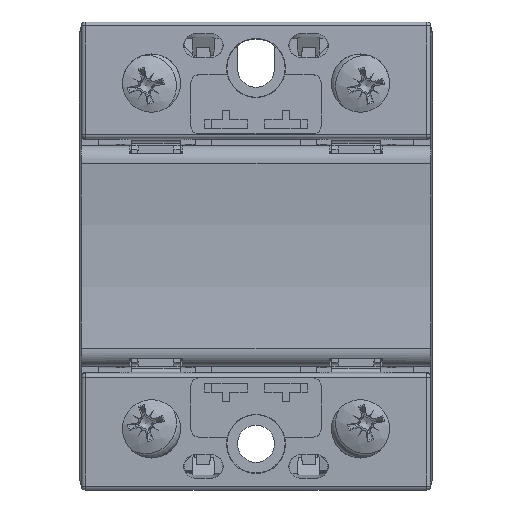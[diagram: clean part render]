
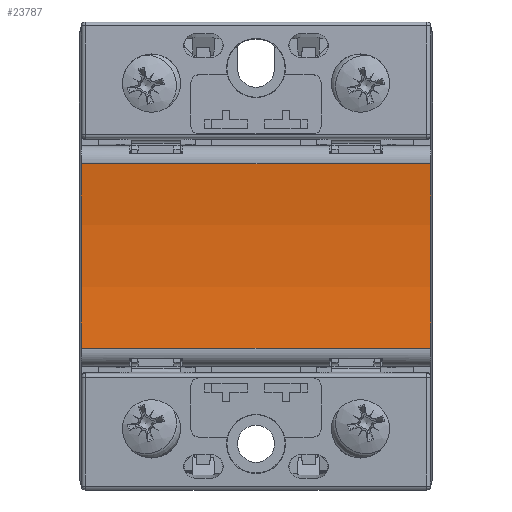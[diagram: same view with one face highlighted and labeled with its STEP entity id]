
A CAD part, top view. The second image highlights one B-rep face of the part: STEP entity #23787.
In plain terms, the highlighted cylindrical face has radius 80 mm (diameter 160 mm), a partial arc.
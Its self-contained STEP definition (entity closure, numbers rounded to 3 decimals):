
#2221=FACE_OUTER_BOUND('',#3435,.T.);
#3435=EDGE_LOOP('',(#15677,#15678,#15679,#15680));
#4727=ELLIPSE('',#25104,80.012,80.);
#4728=ELLIPSE('',#25105,80.012,80.);
#5271=LINE('',#34122,#7480);
#5272=LINE('',#34125,#7481);
#7480=VECTOR('',#27615,10.);
#7481=VECTOR('',#27618,10.);
#9735=VERTEX_POINT('',#34118);
#9736=VERTEX_POINT('',#34119);
#9737=VERTEX_POINT('',#34121);
#9738=VERTEX_POINT('',#34123);
#12082=EDGE_CURVE('',#9735,#9736,#4727,.T.);
#12083=EDGE_CURVE('',#9737,#9735,#5271,.T.);
#12084=EDGE_CURVE('',#9738,#9737,#4728,.T.);
#12085=EDGE_CURVE('',#9736,#9738,#5272,.T.);
#15677=ORIENTED_EDGE('',*,*,#12082,.F.);
#15678=ORIENTED_EDGE('',*,*,#12083,.F.);
#15679=ORIENTED_EDGE('',*,*,#12084,.F.);
#15680=ORIENTED_EDGE('',*,*,#12085,.F.);
#22357=CYLINDRICAL_SURFACE('',#25103,80.);
#23787=ADVANCED_FACE('',(#2221),#22357,.F.);
#25103=AXIS2_PLACEMENT_3D('',#34117,#27611,#27612);
#25104=AXIS2_PLACEMENT_3D('',#34120,#27613,#27614);
#25105=AXIS2_PLACEMENT_3D('',#34124,#27616,#27617);
#27611=DIRECTION('center_axis',(-1.,0.,0.));
#27612=DIRECTION('ref_axis',(0.,0.,
-1.));
#27613=DIRECTION('center_axis',(1.,0.,
-0.017));
#27614=DIRECTION('ref_axis',(-0.017,0.,-1.));
#27615=DIRECTION('',(-1.,0.,0.));
#27616=DIRECTION('center_axis',(-1.,0.,
-0.017));
#27617=DIRECTION('ref_axis',(0.017,0.,-1.));
#27618=DIRECTION('',(1.,0.,0.));
#34117=CARTESIAN_POINT('Origin',(5.889,-0.008,
107.775));
#34118=CARTESIAN_POINT('',(-22.145,-11.704,28.634));
#34119=CARTESIAN_POINT('',(-22.145,11.688,28.634));
#34120=CARTESIAN_POINT('Origin',(-20.763,-0.008,
107.775));
#34121=CARTESIAN_POINT('',(22.145,-11.704,28.634));
#34122=CARTESIAN_POINT('',(0.,-11.704,28.634));
#34123=CARTESIAN_POINT('',(22.145,11.688,28.634));
#34124=CARTESIAN_POINT('Origin',(20.763,-0.008,107.775));
#34125=CARTESIAN_POINT('',(0.,11.688,28.634));
